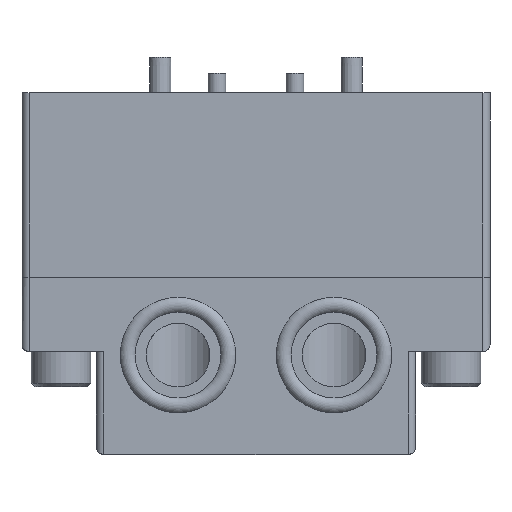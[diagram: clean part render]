
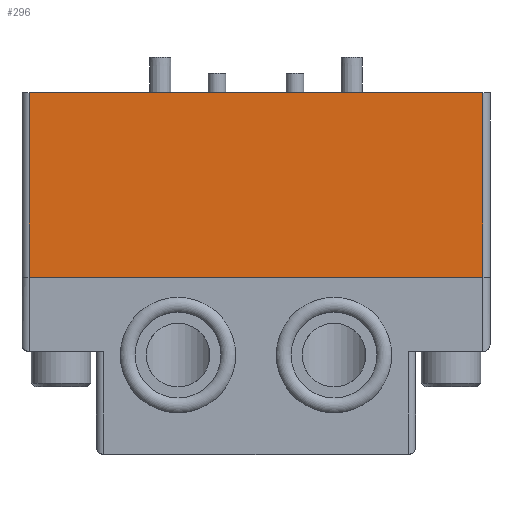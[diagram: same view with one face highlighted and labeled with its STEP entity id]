
A CAD part, top view. The second image highlights one B-rep face of the part: STEP entity #296.
In plain terms, the highlighted planar face has unit normal (0, 0, 1).
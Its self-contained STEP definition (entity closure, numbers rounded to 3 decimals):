
#296=ADVANCED_FACE('',(#683),#684,.F.);
#683=FACE_OUTER_BOUND('',#1154,.T.);
#684=PLANE('',#1155);
#1154=EDGE_LOOP('',(#1926,#1927,#1928,#1929));
#1155=AXIS2_PLACEMENT_3D('',#1930,#1931,#1932);
#1926=ORIENTED_EDGE('',*,*,#2626,.T.);
#1927=ORIENTED_EDGE('',*,*,#2629,.T.);
#1928=ORIENTED_EDGE('',*,*,#2630,.F.);
#1929=ORIENTED_EDGE('',*,*,#2631,.T.);
#1930=CARTESIAN_POINT('',(32.,-26.,13.));
#1931=DIRECTION('',(0.0,0.,-1.0));
#1932=DIRECTION('',(-1.0,0.0,0.0));
#2626=EDGE_CURVE('',#3135,#3133,#3136,.T.);
#2629=EDGE_CURVE('',#3133,#3139,#3140,.T.);
#2630=EDGE_CURVE('',#3141,#3139,#3142,.T.);
#2631=EDGE_CURVE('',#3141,#3135,#3143,.T.);
#3133=VERTEX_POINT('',#3958);
#3135=VERTEX_POINT('',#3960);
#3136=LINE('',#3961,#3962);
#3139=VERTEX_POINT('',#3965);
#3140=LINE('',#3966,#3967);
#3141=VERTEX_POINT('',#3968);
#3142=LINE('',#3969,#3970);
#3143=LINE('',#3971,#3972);
#3958=CARTESIAN_POINT('',(-32.0,0.,13.));
#3960=CARTESIAN_POINT('',(32.,0.,13.));
#3961=CARTESIAN_POINT('',(32.,0.,13.));
#3962=VECTOR('',#4449,1.0);
#3965=CARTESIAN_POINT('',(-32.0,-26.,13.));
#3966=CARTESIAN_POINT('',(-32.0,-26.,13.));
#3967=VECTOR('',#4453,1.0);
#3968=CARTESIAN_POINT('',(32.0,-26.,13.));
#3969=CARTESIAN_POINT('',(32.,-26.,13.));
#3970=VECTOR('',#4454,1.0);
#3971=CARTESIAN_POINT('',(32.,-23.5,13.));
#3972=VECTOR('',#4455,1.0);
#4449=DIRECTION('',(-1.0,0.0,0.0));
#4453=DIRECTION('',(0.0,-1.0,0.0));
#4454=DIRECTION('',(-1.0,0.0,0.0));
#4455=DIRECTION('',(0.0,1.0,0.0));
